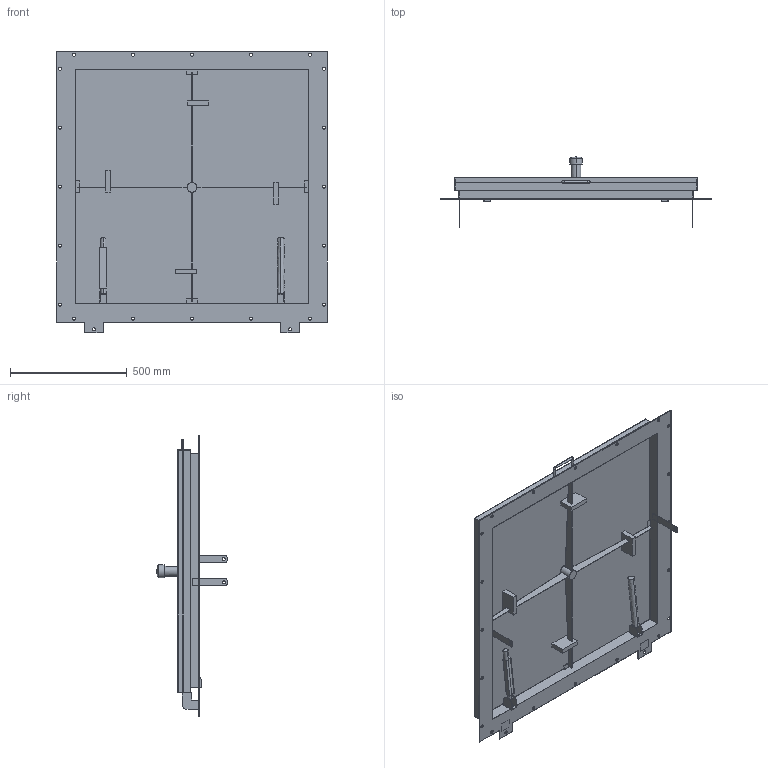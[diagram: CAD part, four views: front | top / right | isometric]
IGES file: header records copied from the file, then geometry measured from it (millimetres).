
Start section:  PTC IGES file: 52427777.igs
Global section: file name: 52427777.igs; native system: Creo Parametric by PTC Inc.; preprocessor: 2022162; author: wep; organization: Unknown; date: 20250805.104850; units: millimetre
Bounding box: 1160 x 303 x 1205 mm (x, y, z)
Surface area: 6192819 mm2 (no closed solid volume)
Topology: 0 solids, 0 shells, 841 faces, 4568 edges, 4562 vertices
Faces by surface type: bspline 486, extrusion 275, revolution 80
